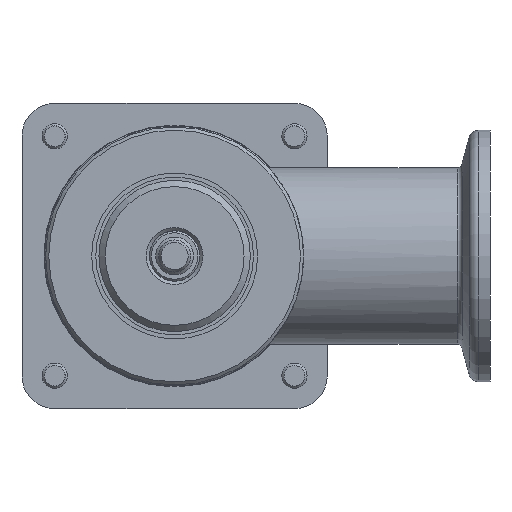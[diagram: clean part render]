
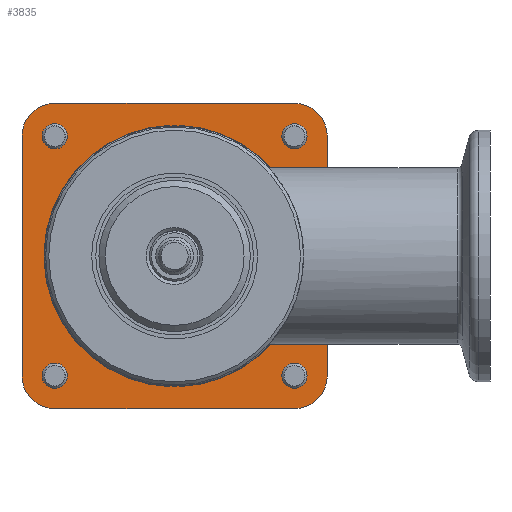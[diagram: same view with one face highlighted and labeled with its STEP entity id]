
A CAD part, front view. The second image highlights one B-rep face of the part: STEP entity #3835.
In plain terms, the highlighted planar face has unit normal (0, -1, 0) as drawn and (0, 1, 0) by its records, which use the part's own axes.
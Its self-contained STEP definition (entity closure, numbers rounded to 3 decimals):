
#2640=LINE('',#14785,#3193);
#2643=LINE('',#14792,#3196);
#2648=LINE('',#14806,#3201);
#2651=LINE('',#14813,#3204);
#2656=LINE('',#14827,#3209);
#2659=LINE('',#14834,#3212);
#2664=LINE('',#14848,#3217);
#2666=LINE('',#14852,#3219);
#2673=LINE('',#14896,#3226);
#2677=LINE('',#14906,#3230);
#2680=LINE('',#14914,#3233);
#2683=LINE('',#14922,#3236);
#3193=VECTOR('',#11741,1.);
#3196=VECTOR('',#11746,1.);
#3201=VECTOR('',#11759,1.);
#3204=VECTOR('',#11764,1.);
#3209=VECTOR('',#11777,1.);
#3212=VECTOR('',#11782,1.);
#3217=VECTOR('',#11795,1.);
#3219=VECTOR('',#11799,1.);
#3226=VECTOR('',#11848,1.);
#3230=VECTOR('',#11858,1.);
#3233=VECTOR('',#11867,1.);
#3236=VECTOR('',#11876,1.);
#3835=ADVANCED_FACE('',(#4446,#4447,#4448,#4449,#4450,#4451),#4084,.T.);
#4084=PLANE('',#9800);
#4446=FACE_BOUND('',#5100,.T.);
#4447=FACE_BOUND('',#5101,.T.);
#4448=FACE_BOUND('',#5102,.T.);
#4449=FACE_BOUND('',#5103,.T.);
#4450=FACE_BOUND('',#5104,.T.);
#4451=FACE_BOUND('',#5105,.T.);
#5100=EDGE_LOOP('',(#6978));
#5101=EDGE_LOOP('',(#6979));
#5102=EDGE_LOOP('',(#6980));
#5103=EDGE_LOOP('',(#6981));
#5104=EDGE_LOOP('',(#6982,#6983,#6984,#6985,#6986,#6987,#6988,#6989));
#5105=EDGE_LOOP('',(#6990,#6991,#6992,#6993,#6994,#6995,#6996,#6997,#6998,
#6999,#7000,#7001,#7002,#7003,#7004,#7005));
#6978=ORIENTED_EDGE('',*,*,#8693,.F.);
#6979=ORIENTED_EDGE('',*,*,#8694,.F.);
#6980=ORIENTED_EDGE('',*,*,#8695,.F.);
#6981=ORIENTED_EDGE('',*,*,#8696,.F.);
#6982=ORIENTED_EDGE('',*,*,#8678,.T.);
#6983=ORIENTED_EDGE('',*,*,#8681,.T.);
#6984=ORIENTED_EDGE('',*,*,#8683,.T.);
#6985=ORIENTED_EDGE('',*,*,#8685,.T.);
#6986=ORIENTED_EDGE('',*,*,#8687,.T.);
#6987=ORIENTED_EDGE('',*,*,#8689,.T.);
#6988=ORIENTED_EDGE('',*,*,#8691,.T.);
#6989=ORIENTED_EDGE('',*,*,#8692,.T.);
#6990=ORIENTED_EDGE('',*,*,#8617,.T.);
#6991=ORIENTED_EDGE('',*,*,#8621,.T.);
#6992=ORIENTED_EDGE('',*,*,#8676,.T.);
#6993=ORIENTED_EDGE('',*,*,#8624,.T.);
#6994=ORIENTED_EDGE('',*,*,#8628,.T.);
#6995=ORIENTED_EDGE('',*,*,#8631,.T.);
#6996=ORIENTED_EDGE('',*,*,#8674,.T.);
#6997=ORIENTED_EDGE('',*,*,#8634,.T.);
#6998=ORIENTED_EDGE('',*,*,#8638,.T.);
#6999=ORIENTED_EDGE('',*,*,#8641,.T.);
#7000=ORIENTED_EDGE('',*,*,#8672,.T.);
#7001=ORIENTED_EDGE('',*,*,#8644,.T.);
#7002=ORIENTED_EDGE('',*,*,#8648,.T.);
#7003=ORIENTED_EDGE('',*,*,#8651,.T.);
#7004=ORIENTED_EDGE('',*,*,#8670,.T.);
#7005=ORIENTED_EDGE('',*,*,#8653,.T.);
#7685=VERTEX_POINT('',#14776);
#7686=VERTEX_POINT('',#14778);
#7688=VERTEX_POINT('',#14784);
#7691=VERTEX_POINT('',#14791);
#7692=VERTEX_POINT('',#14793);
#7694=VERTEX_POINT('',#14799);
#7696=VERTEX_POINT('',#14805);
#7699=VERTEX_POINT('',#14812);
#7700=VERTEX_POINT('',#14814);
#7702=VERTEX_POINT('',#14820);
#7704=VERTEX_POINT('',#14826);
#7707=VERTEX_POINT('',#14833);
#7708=VERTEX_POINT('',#14835);
#7710=VERTEX_POINT('',#14841);
#7712=VERTEX_POINT('',#14847);
#7714=VERTEX_POINT('',#14853);
#7729=VERTEX_POINT('',#14895);
#7730=VERTEX_POINT('',#14897);
#7731=VERTEX_POINT('',#14901);
#7732=VERTEX_POINT('',#14905);
#7733=VERTEX_POINT('',#14909);
#7734=VERTEX_POINT('',#14913);
#7735=VERTEX_POINT('',#14917);
#7736=VERTEX_POINT('',#14921);
#7737=VERTEX_POINT('',#14927);
#7738=VERTEX_POINT('',#14929);
#7739=VERTEX_POINT('',#14931);
#7740=VERTEX_POINT('',#14933);
#8617=EDGE_CURVE('',#7686,#7685,#9011,.T.);
#8621=EDGE_CURVE('',#7685,#7688,#2640,.T.);
#8624=EDGE_CURVE('',#7692,#7691,#2643,.T.);
#8628=EDGE_CURVE('',#7691,#7694,#9013,.T.);
#8631=EDGE_CURVE('',#7694,#7696,#2648,.T.);
#8634=EDGE_CURVE('',#7700,#7699,#2651,.T.);
#8638=EDGE_CURVE('',#7699,#7702,#9015,.T.);
#8641=EDGE_CURVE('',#7702,#7704,#2656,.T.);
#8644=EDGE_CURVE('',#7708,#7707,#2659,.T.);
#8648=EDGE_CURVE('',#7707,#7710,#9017,.T.);
#8651=EDGE_CURVE('',#7710,#7712,#2664,.T.);
#8653=EDGE_CURVE('',#7714,#7686,#2666,.T.);
#8670=EDGE_CURVE('',#7712,#7714,#9029,.T.);
#8672=EDGE_CURVE('',#7704,#7708,#9031,.T.);
#8674=EDGE_CURVE('',#7696,#7700,#9033,.T.);
#8676=EDGE_CURVE('',#7688,#7692,#9035,.T.);
#8678=EDGE_CURVE('',#7730,#7729,#2673,.T.);
#8681=EDGE_CURVE('',#7729,#7731,#9036,.T.);
#8683=EDGE_CURVE('',#7731,#7732,#2677,.T.);
#8685=EDGE_CURVE('',#7732,#7733,#9037,.T.);
#8687=EDGE_CURVE('',#7733,#7734,#2680,.T.);
#8689=EDGE_CURVE('',#7734,#7735,#9038,.T.);
#8691=EDGE_CURVE('',#7735,#7736,#2683,.T.);
#8692=EDGE_CURVE('',#7736,#7730,#9039,.T.);
#8693=EDGE_CURVE('',#7737,#7737,#9040,.T.);
#8694=EDGE_CURVE('',#7738,#7738,#9041,.T.);
#8695=EDGE_CURVE('',#7739,#7739,#9042,.T.);
#8696=EDGE_CURVE('',#7740,#7740,#9043,.T.);
#9011=CIRCLE('',#9745,20.55);
#9013=CIRCLE('',#9750,20.55);
#9015=CIRCLE('',#9755,20.55);
#9017=CIRCLE('',#9760,20.55);
#9029=CIRCLE('',#9776,20.725);
#9031=CIRCLE('',#9778,20.725);
#9033=CIRCLE('',#9780,20.725);
#9035=CIRCLE('',#9782,20.725);
#9036=CIRCLE('',#9785,5.2);
#9037=CIRCLE('',#9788,5.2);
#9038=CIRCLE('',#9791,5.2);
#9039=CIRCLE('',#9794,5.2);
#9040=CIRCLE('',#9796,2.);
#9041=CIRCLE('',#9797,2.);
#9042=CIRCLE('',#9798,2.);
#9043=CIRCLE('',#9799,2.);
#9745=AXIS2_PLACEMENT_3D('',#14777,#11734,#11735);
#9750=AXIS2_PLACEMENT_3D('',#14800,#11753,#11754);
#9755=AXIS2_PLACEMENT_3D('',#14821,#11771,#11772);
#9760=AXIS2_PLACEMENT_3D('',#14842,#11789,#11790);
#9776=AXIS2_PLACEMENT_3D('',#14886,#11831,#11832);
#9778=AXIS2_PLACEMENT_3D('',#14888,#11835,#11836);
#9780=AXIS2_PLACEMENT_3D('',#14890,#11839,#11840);
#9782=AXIS2_PLACEMENT_3D('',#14892,#11843,#11844);
#9785=AXIS2_PLACEMENT_3D('',#14902,#11853,#11854);
#9788=AXIS2_PLACEMENT_3D('',#14910,#11862,#11863);
#9791=AXIS2_PLACEMENT_3D('',#14918,#11871,#11872);
#9794=AXIS2_PLACEMENT_3D('',#14924,#11879,#11880);
#9796=AXIS2_PLACEMENT_3D('',#14926,#11883,#11884);
#9797=AXIS2_PLACEMENT_3D('',#14928,#11885,#11886);
#9798=AXIS2_PLACEMENT_3D('',#14930,#11887,#11888);
#9799=AXIS2_PLACEMENT_3D('',#14932,#11889,#11890);
#9800=AXIS2_PLACEMENT_3D('',#14934,#11891,#11892);
#11734=DIRECTION('',(0.,-1.,0.));
#11735=DIRECTION('',(0.,0.,1.));
#11741=DIRECTION('',(0.,0.,1.));
#11746=DIRECTION('',(1.,0.,0.));
#11753=DIRECTION('',(0.,-1.,0.));
#11754=DIRECTION('',(0.,0.,1.));
#11759=DIRECTION('',(-1.,0.,0.));
#11764=DIRECTION('',(0.,0.,1.));
#11771=DIRECTION('',(0.,-1.,0.));
#11772=DIRECTION('',(0.,0.,1.));
#11777=DIRECTION('',(0.,0.,-1.));
#11782=DIRECTION('',(-1.,0.,0.));
#11789=DIRECTION('',(0.,-1.,0.));
#11790=DIRECTION('',(0.,0.,1.));
#11795=DIRECTION('',(1.,0.,0.));
#11799=DIRECTION('',(0.,0.,-1.));
#11831=DIRECTION('',(0.,-1.,0.));
#11832=DIRECTION('',(0.,0.,1.));
#11835=DIRECTION('',(0.,-1.,0.));
#11836=DIRECTION('',(0.,0.,1.));
#11839=DIRECTION('',(0.,-1.,0.));
#11840=DIRECTION('',(0.,0.,1.));
#11843=DIRECTION('',(0.,-1.,0.));
#11844=DIRECTION('',(0.,0.,1.));
#11848=DIRECTION('',(0.,0.,-1.));
#11853=DIRECTION('',(0.,1.,0.));
#11854=DIRECTION('',(1.,0.,0.));
#11858=DIRECTION('',(-1.,0.,0.));
#11862=DIRECTION('',(0.,1.,0.));
#11863=DIRECTION('',(0.,0.,-1.));
#11867=DIRECTION('',(0.,0.,1.));
#11871=DIRECTION('',(0.,1.,0.));
#11872=DIRECTION('',(-1.,0.,0.));
#11876=DIRECTION('',(1.,0.,0.));
#11879=DIRECTION('',(0.,1.,0.));
#11880=DIRECTION('',(0.,0.,1.));
#11883=DIRECTION('',(0.,1.,0.));
#11884=DIRECTION('',(-1.,0.,0.));
#11885=DIRECTION('',(0.,1.,0.));
#11886=DIRECTION('',(-1.,0.,0.));
#11887=DIRECTION('',(0.,1.,0.));
#11888=DIRECTION('',(-1.,0.,0.));
#11889=DIRECTION('',(0.,1.,0.));
#11890=DIRECTION('',(-1.,0.,0.));
#11891=DIRECTION('',(0.,1.,0.));
#11892=DIRECTION('',(0.,0.,1.));
#14776=CARTESIAN_POINT('',(-0.75,8.,20.536));
#14777=CARTESIAN_POINT('',(0.,8.,0.));
#14778=CARTESIAN_POINT('',(0.75,8.,20.536));
#14784=CARTESIAN_POINT('',(-0.75,8.,20.711));
#14785=CARTESIAN_POINT('',(-0.75,8.,20.536));
#14791=CARTESIAN_POINT('',(-20.536,8.,0.75));
#14792=CARTESIAN_POINT('',(-20.711,8.,0.75));
#14793=CARTESIAN_POINT('',(-20.711,8.,0.75));
#14799=CARTESIAN_POINT('',(-20.536,8.,-0.75));
#14800=CARTESIAN_POINT('',(0.,8.,0.));
#14805=CARTESIAN_POINT('',(-20.711,8.,-0.75));
#14806=CARTESIAN_POINT('',(-20.536,8.,-0.75));
#14812=CARTESIAN_POINT('',(-0.75,8.,-20.536));
#14813=CARTESIAN_POINT('',(-0.75,8.,-20.711));
#14814=CARTESIAN_POINT('',(-0.75,8.,-20.711));
#14820=CARTESIAN_POINT('',(0.75,8.,-20.536));
#14821=CARTESIAN_POINT('',(0.,8.,0.));
#14826=CARTESIAN_POINT('',(0.75,8.,-20.711));
#14827=CARTESIAN_POINT('',(0.75,8.,-20.536));
#14833=CARTESIAN_POINT('',(20.536,8.,-0.75));
#14834=CARTESIAN_POINT('',(20.711,8.,-0.75));
#14835=CARTESIAN_POINT('',(20.711,8.,-0.75));
#14841=CARTESIAN_POINT('',(20.536,8.,0.75));
#14842=CARTESIAN_POINT('',(0.,8.,0.));
#14847=CARTESIAN_POINT('',(20.711,8.,0.75));
#14848=CARTESIAN_POINT('',(20.536,8.,0.75));
#14852=CARTESIAN_POINT('',(0.75,8.,20.711));
#14853=CARTESIAN_POINT('',(0.75,8.,20.711));
#14886=CARTESIAN_POINT('',(0.,8.,0.));
#14888=CARTESIAN_POINT('',(0.,8.,0.));
#14890=CARTESIAN_POINT('',(0.,8.,0.));
#14892=CARTESIAN_POINT('',(0.,8.,0.));
#14895=CARTESIAN_POINT('',(24.2,8.,-19.));
#14896=CARTESIAN_POINT('',(24.2,8.,19.));
#14897=CARTESIAN_POINT('',(24.2,8.,19.));
#14901=CARTESIAN_POINT('',(19.,8.,-24.2));
#14902=CARTESIAN_POINT('',(19.,8.,-19.));
#14905=CARTESIAN_POINT('',(-19.,8.,-24.2));
#14906=CARTESIAN_POINT('',(19.,8.,-24.2));
#14909=CARTESIAN_POINT('',(-24.2,8.,-19.));
#14910=CARTESIAN_POINT('',(-19.,8.,-19.));
#14913=CARTESIAN_POINT('',(-24.2,8.,19.));
#14914=CARTESIAN_POINT('',(-24.2,8.,-19.));
#14917=CARTESIAN_POINT('',(-19.,8.,24.2));
#14918=CARTESIAN_POINT('',(-19.,8.,19.));
#14921=CARTESIAN_POINT('',(19.,8.,24.2));
#14922=CARTESIAN_POINT('',(-19.,8.,24.2));
#14924=CARTESIAN_POINT('',(19.,8.,19.));
#14926=CARTESIAN_POINT('',(-19.,8.,19.));
#14927=CARTESIAN_POINT('',(-21.,8.,19.));
#14928=CARTESIAN_POINT('',(19.,8.,-19.));
#14929=CARTESIAN_POINT('',(17.,8.,-19.));
#14930=CARTESIAN_POINT('',(-19.,8.,-19.));
#14931=CARTESIAN_POINT('',(-21.,8.,-19.));
#14932=CARTESIAN_POINT('',(19.,8.,19.));
#14933=CARTESIAN_POINT('',(17.,8.,19.));
#14934=CARTESIAN_POINT('',(19.,8.,-19.));
